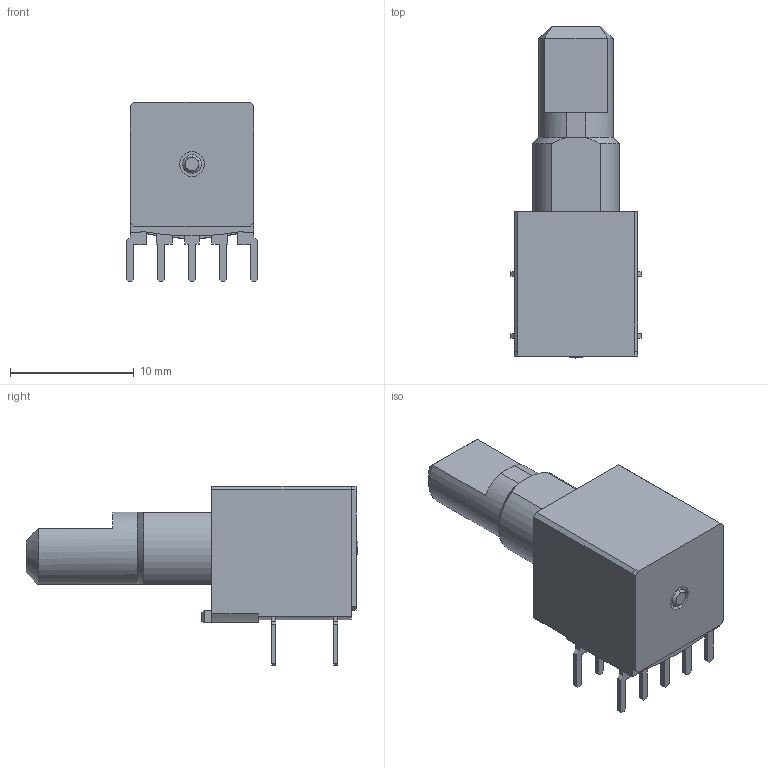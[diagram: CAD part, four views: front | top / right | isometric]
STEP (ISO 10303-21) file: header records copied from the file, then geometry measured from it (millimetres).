
FILE_DESCRIPTION (( 'STEP AP214' ), '1' );
FILE_NAME ('SRBM154002.STEP', '2011-12-08T11:23:53', ( ' ' ), ( '' ), 'SwSTEP 2.0', 'SolidWorks 2010', '' );
FILE_SCHEMA (( 'AUTOMOTIVE_DESIGN' ));
Length unit declared in the file: millimetre
Products named in the file (1): SRBM154002
Bounding box: 10.6 x 26.8 x 14.5 mm (x, y, z)
Volume: 1672.4 mm3; surface area: 1058.4 mm2
Topology: 1 solids, 1 shells, 179 faces, 495 edges, 325 vertices
Faces by surface type: plane 159, cylinder 12, cone 8
Entity records: 7582 total; most frequent: CARTESIAN_POINT 1087, ORIENTED_EDGE 990, DIRECTION 889, EDGE_CURVE 495, LINE 419, VECTOR 419, VERTEX_POINT 325, AXIS2_PLACEMENT_3D 235
